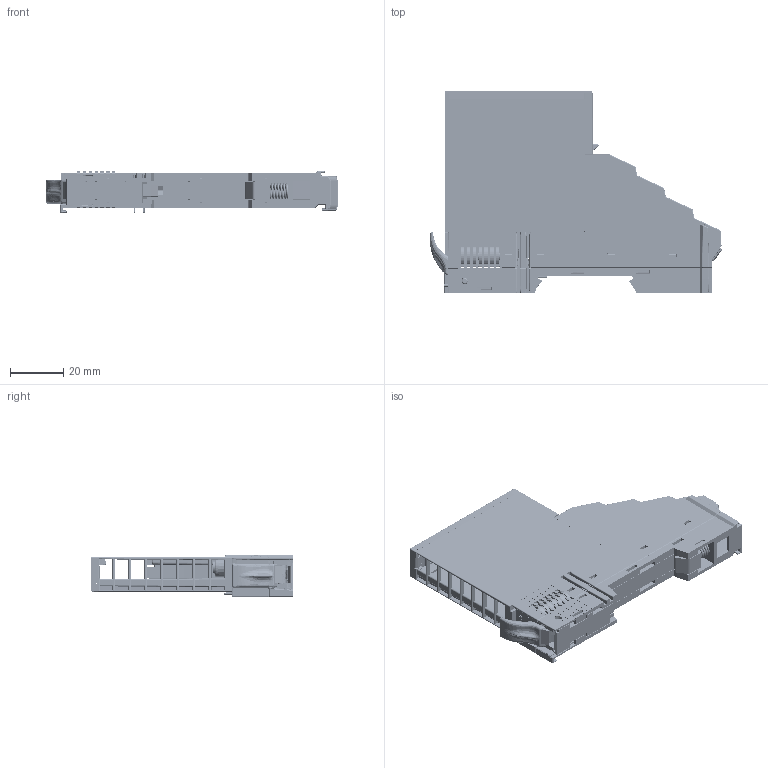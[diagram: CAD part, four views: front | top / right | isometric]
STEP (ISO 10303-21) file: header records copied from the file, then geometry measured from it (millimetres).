
FILE_DESCRIPTION((''),'2;1');
FILE_NAME('SLIO-TYPE02','2022-04-06T09:26:14',('TReuther'),(''),'CREO PARAMETRIC BY PTC INC, 2020454','CREO PARAMETRIC BY PTC INC, 2020454','');
FILE_SCHEMA(('CONFIG_CONTROL_DESIGN','SHAPE_APPEARANCE_LAYERS_GROUPS'));
Products named in the file (1): SLIO-TYPE02
Bounding box: 109.42 x 76 x 15.95 mm (x, y, z)
Volume: 31168.8 mm3; surface area: 61034.7 mm2
Topology: 1 solids, 1 shells, 10870 faces, 31644 edges, 20471 vertices
Faces by surface type: plane 8000, cylinder 1801, torus 501, bspline 296, cone 164, sphere 82, extrusion 26
Entity records: 454018 total; most frequent: CARTESIAN_POINT 95237, ORIENTED_EDGE 63268, DIRECTION 54081, EDGE_CURVE 31634, VECTOR 25409, LINE 25383, VERTEX_POINT 20471, AXIS2_PLACEMENT_3D 14336
